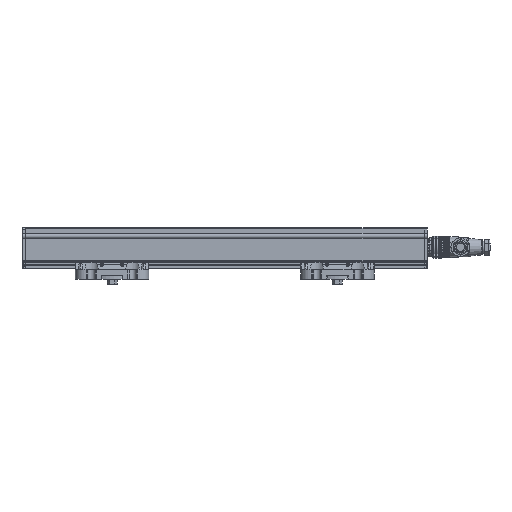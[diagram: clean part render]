
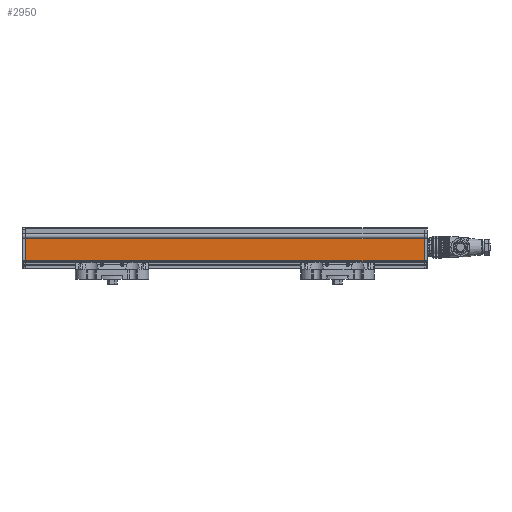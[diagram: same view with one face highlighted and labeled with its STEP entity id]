
A CAD part, front view. The second image highlights one B-rep face of the part: STEP entity #2950.
In plain terms, the highlighted planar face has unit normal (0, -1, 0).
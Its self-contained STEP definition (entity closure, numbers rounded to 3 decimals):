
#2950=ADVANCED_FACE('', (#2960), #2970, .T.);
#128390=AXIS2_PLACEMENT_3D('Ax2Pl3d', #128400, #128410, #128420);
#1288280=CARTESIAN_POINT('', (-41.096,53.671,
83.775));
#1288290=CARTESIAN_POINT('', (-41.096,53.671,
83.775));
#1288300=CARTESIAN_POINT('', (-41.096,53.671,
104.338));
#1289340=CARTESIAN_POINT('', (328.903,53.671,104.338)
);
#1289350=CARTESIAN_POINT('', (328.903,53.671,83.775)
);
#1289360=CARTESIAN_POINT('', (328.903,53.671,83.775)
);
#1289830=CARTESIAN_POINT('', (328.903,53.671,83.775)
);
#128400=CARTESIAN_POINT('HicPkt', (-41.096,53.671,
104.338));
#1289840=CARTESIAN_POINT('', (328.903,53.671,104.338)
);
#1711900=DIRECTION('', (0.,0.,-1.));
#1712250=DIRECTION('', (0.,0.,-1.));
#1712610=DIRECTION('', (1.,0.,0.));
#128410=DIRECTION('Axis', (0.,-1.,
0.));
#128420=DIRECTION('RefDirection', (0.,
0.,-1.));
#1712620=DIRECTION('', (1.,0.,0.));
#1768640=EDGE_CURVE('', #1768650, #1768630, #1768660, .T.);
#1770650=EDGE_CURVE('', #1770640, #1770660, #1770670, .T.);
#1771560=EDGE_CURVE('', #1768630, #1770660, #1771570, .T.);
#1771580=EDGE_CURVE('', #1768650, #1770640, #1771590, .T.);
#1992710=EDGE_LOOP('Edge_loop', (#1992720,#1992730,#1992740,#1992750));
#2960=FACE_OUTER_BOUND('Face_outer_bound', #1992710, .T.);
#1768660=LINE('Line', #1288290, #2233160);
#1770670=LINE('Line', #1289350, #2233510);
#1771570=LINE('Line', #1289830, #2233870);
#1771590=LINE('Line', #1289840, #2233880);
#1992720=ORIENTED_EDGE('', *, *, #1768640, .T.);
#1992730=ORIENTED_EDGE('', *, *, #1771560, .T.);
#1992740=ORIENTED_EDGE('', *, *, #1770650, .F.);
#1992750=ORIENTED_EDGE('', *, *, #1771580, .F.);
#2970=PLANE('Plane', #128390);
#2233160=VECTOR('', #1711900, 20.563);
#2233510=VECTOR('', #1712250, 20.563);
#2233870=VECTOR('', #1712610, 370.);
#2233880=VECTOR('', #1712620, 370.);
#1768630=VERTEX_POINT('', #1288280);
#1768650=VERTEX_POINT('', #1288300);
#1770640=VERTEX_POINT('', #1289340);
#1770660=VERTEX_POINT('', #1289360);
